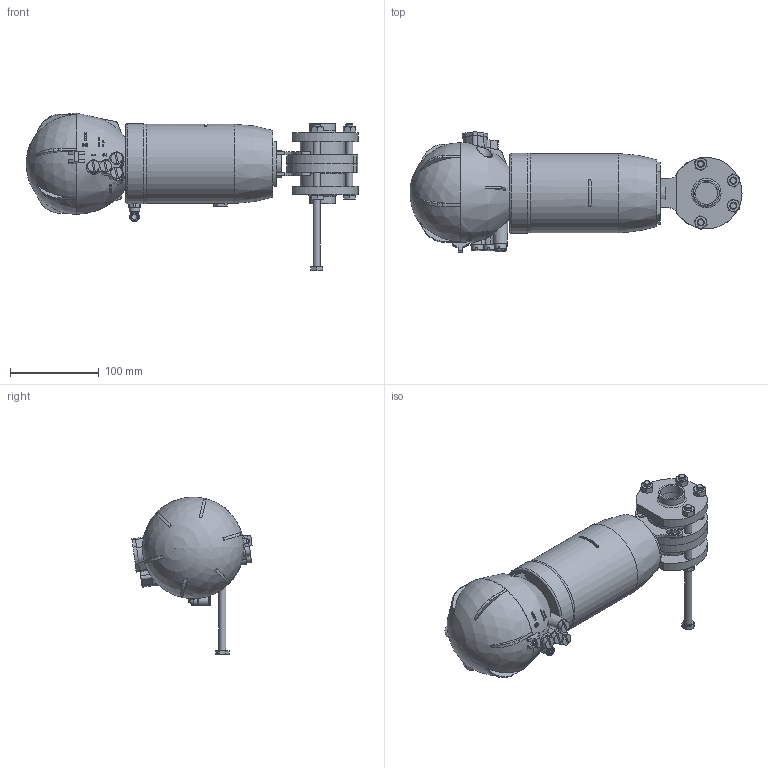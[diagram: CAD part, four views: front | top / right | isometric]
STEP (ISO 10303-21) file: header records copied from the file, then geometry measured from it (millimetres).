
FILE_DESCRIPTION(/* description */ ('ZVF V.FARF.DN25(29X1.5) WAF4 MACH83 SENC EPDM 316'),/* implementation_level */ '2;1');
FILE_NAME(/* name */ 'C:\_DED_PWS\MARZ-M\DB\B\EAA\BEAAC6025BEBA-00^SAGOMA.step',/* time_stamp */ '2025-07-22T10:34:35+02:00',/* author */ (''),/* organization */ (''),/* preprocessor_version */ 'ST-DEVELOPER v20',/* originating_system */ 'Autodesk Inventor 2022',/* authorisation */ '');
FILE_SCHEMA (('CONFIG_CONTROL_DESIGN'));
Length unit declared in the file: millimetre
Products named in the file (8): BEAAC6025BEBA; UNI 5588 - M8; 3DAAZVFAA052; Supporto-farf-DN25-65-; 3DAAJGIOAA007; UNI 5739 - M8 x 80; TWD030025BBA; TPM020025BBA
Assembly tree (16 placements, depth 2):
  BEAAC6025BEBA
    UNI 5588 - M8  x4
    UNI 5739 - M8 x 80  x5
    3DAAZVFAA052
    Supporto-farf-DN25-65-
    3DAAJGIOAA007
    TWD030025BBA  x2
    TPM020025BBA  x2
Bounding box: 373.17 x 135.08 x 177.29 mm (x, y, z)
Volume: 2134426.6 mm3; surface area: 214706.1 mm2
Topology: 16 solids, 16 shells, 1197 faces, 3138 edges, 2042 vertices
Faces by surface type: plane 815, cylinder 162, cone 146, bspline 56, torus 17, sphere 1
Full cylindrical faces by diameter (mm): 2 x1, 3 x1, 4 x1, 4.917 x11, 6 x2, 6.2 x12, 6.647 x4, 7 x5, 7.8 x1, 8 x5, 8.2 x12, 8.3 x1, 8.566 x1, 10 x2, 10.376 x1, 11 x1, 11.5 x1, 11.63 x5, 13 x4, 18 x1, 18.5 x2, 24.5 x1, 25 x1, 26 x3, 29 x2, 30 x1, 30.3 x1, 50 x2, 82.8 x1, 83 x1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
Entity records: 35884 total; most frequent: CARTESIAN_POINT 8566, DIRECTION 5755, ORIENTED_EDGE 5470, EDGE_CURVE 2735, AXIS2_PLACEMENT_3D 2344, VERTEX_POINT 1804, EDGE_LOOP 1143, LINE 1067
